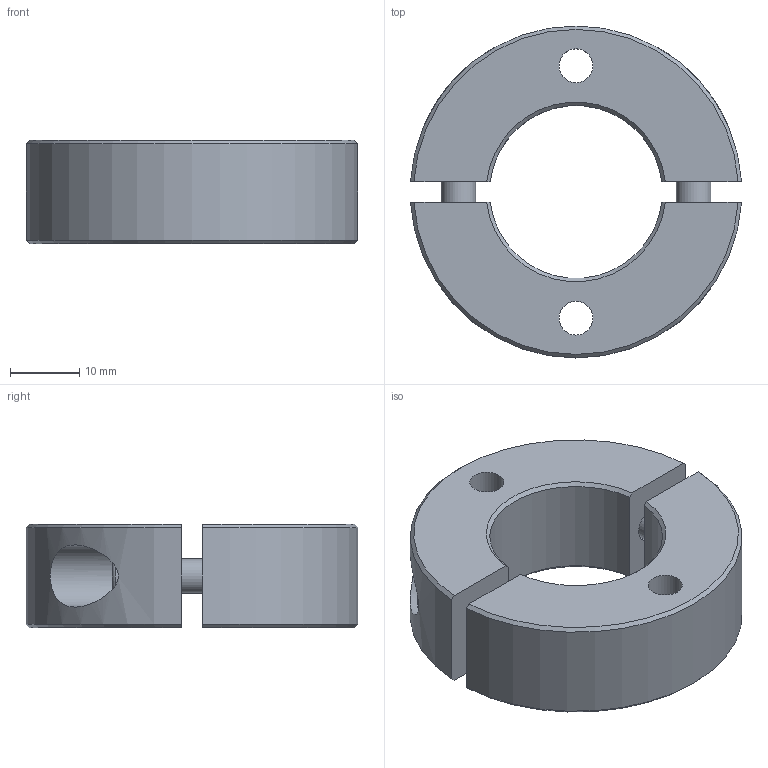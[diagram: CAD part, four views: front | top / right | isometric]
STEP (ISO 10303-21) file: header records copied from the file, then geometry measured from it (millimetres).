
FILE_DESCRIPTION( ( 'STEP AP203' ), '1' );
FILE_NAME( 'C:/Temp/Ganter_Step_05_03_2020/data/3_2/gn7072_2/Split Stainless Steel-Set collar GN 7072.2-48-B25-NI-C.stp', '2020-03-13T05:41:08', ( 'License CC BY-ND 4.0' ), ( 'CADENAS' ), ' ', 'PARTsolutions', ' ' );
FILE_SCHEMA( ( 'CONFIG_CONTROL_DESIGN' ) );
Length unit declared in the file: millimetre
Products named in the file (1): _Split Stainless Steel-Set collar GN 7072.2-48-B25-NI-C
Bounding box: 47.91 x 48 x 15 mm (x, y, z)
Volume: 17400.9 mm3; surface area: 7883.6 mm2
Topology: 1 solids, 1 shells, 52 faces, 123 edges, 83 vertices
Faces by surface type: plane 28, cylinder 14, cone 8, torus 2
Full cylindrical faces by diameter (mm): 4.917 x2, 5 x2, 5.4 x2, 8.5 x2, 9 x2
Entity records: 1616 total; most frequent: CARTESIAN_POINT 431, DIRECTION 230, ORIENTED_EDGE 212, EDGE_CURVE 106, AXIS2_PLACEMENT_3D 89, EDGE_LOOP 80, VERTEX_POINT 78, FACE_OUTER_BOUND 64
